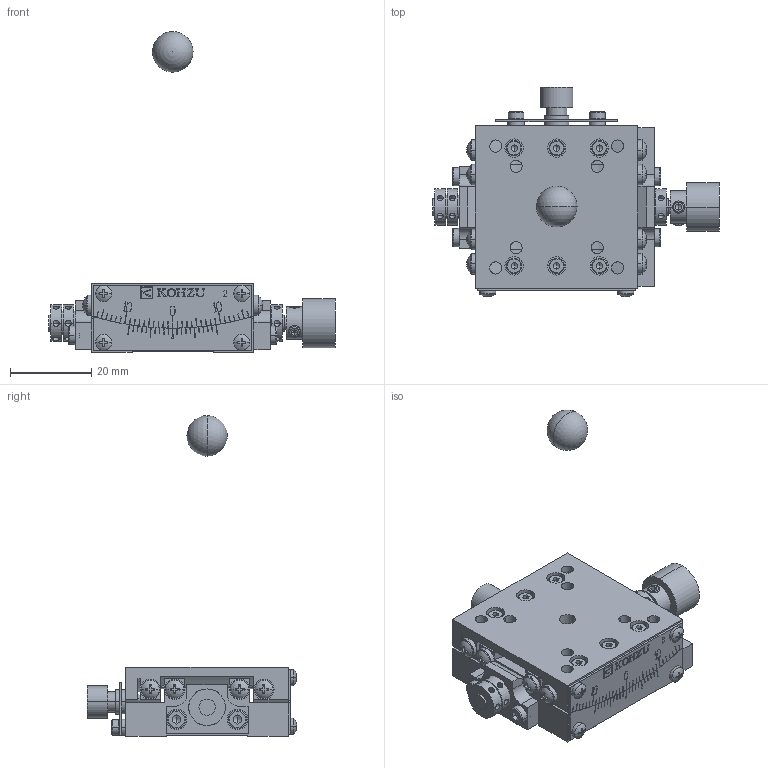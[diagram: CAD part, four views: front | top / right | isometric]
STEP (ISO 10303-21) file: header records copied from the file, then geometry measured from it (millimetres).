
FILE_DESCRIPTION (( 'STEP AP203' ), '1' );
FILE_NAME ('SH04B-RM.STEP', '2015-05-12T02:53:47', ( '' ), ( '' ), 'SwSTEP 2.0', 'SolidWorks 2011', '' );
FILE_SCHEMA (( 'CONFIG_CONTROL_DESIGN' ));
Length unit declared in the file: millimetre
Products named in the file (4): SH04B-RM; table-7; rotation-center; base-7
Assembly tree (3 placements, depth 2):
  SH04B-RM
    rotation-center
    base-7
    table-7
Bounding box: 70.5 x 51.59 x 79 mm (x, y, z)
Volume: 27168.6 mm3; surface area: 19444.8 mm2
Topology: 7 solids, 49 shells, 1810 faces, 4414 edges, 2684 vertices
Faces by surface type: plane 918, cylinder 576, cone 268, sphere 26, torus 16, bspline 6
Entity records: 56035 total; most frequent: CARTESIAN_POINT 13193, DIRECTION 9139, ORIENTED_EDGE 8562, EDGE_CURVE 4281, AXIS2_PLACEMENT_3D 3340, VERTEX_POINT 2677, LINE 2459, VECTOR 2459
